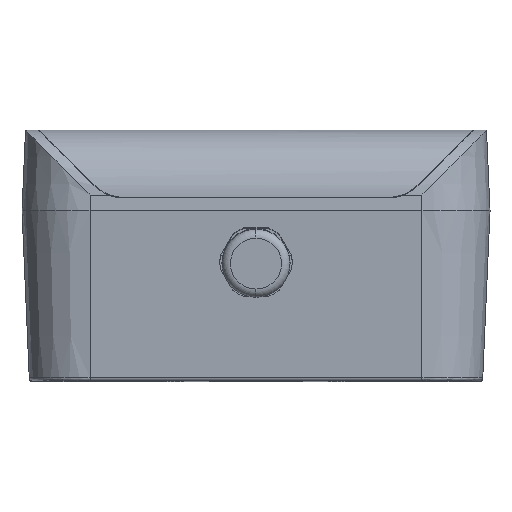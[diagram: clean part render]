
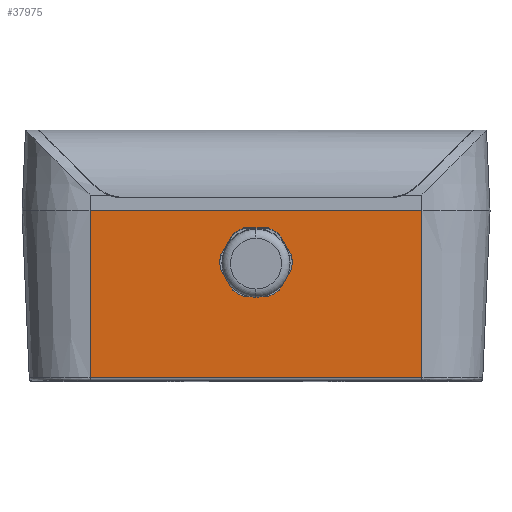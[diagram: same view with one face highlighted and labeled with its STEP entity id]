
A CAD part, top view. The second image highlights one B-rep face of the part: STEP entity #37975.
In plain terms, the highlighted planar face has unit normal (0, -0.044, 0.999) as drawn and (0.999, -0.044, 0) by its records, which use the part's own axes.
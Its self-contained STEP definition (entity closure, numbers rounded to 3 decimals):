
#2687 = ORIENTED_EDGE ( 'NONE', *, *, #29177, .T. ) ;
#3747 = CARTESIAN_POINT ( 'NONE',  ( 68.285, 0.717, -39. ) ) ;
#3921 = VERTEX_POINT ( 'NONE', #41960 ) ;
#5161 = CARTESIAN_POINT ( 'NONE',  ( 70., 40., 39. ) ) ;
#7081 = DIRECTION ( 'NONE',  ( 0., 0., -1. ) ) ;
#7794 = CARTESIAN_POINT ( 'NONE',  ( 70., 40., 39. ) ) ;
#11248 = LINE ( 'NONE', #7794, #59584 ) ;
#11751 = CARTESIAN_POINT ( 'NONE',  ( 70., 40., 39. ) ) ;
#12471 = DIRECTION ( 'NONE',  ( -0.044, -0.999, 0. ) ) ;
#12801 = AXIS2_PLACEMENT_3D ( 'NONE', #16273, #48984, #20999 ) ;
#12861 = VERTEX_POINT ( 'NONE', #45267 ) ;
#14370 = FACE_BOUND ( 'NONE', #25159, .T. ) ;
#16103 = ORIENTED_EDGE ( 'NONE', *, *, #49484, .F. ) ;
#16273 = CARTESIAN_POINT ( 'NONE',  ( 69.474, 27.961, 0. ) ) ;
#18792 = CARTESIAN_POINT ( 'NONE',  ( 70., 40., -39. ) ) ;
#19293 = PLANE ( 'NONE',  #41848 ) ;
#20999 = DIRECTION ( 'NONE',  ( 0.044, 0.999, 0. ) ) ;
#21915 = CARTESIAN_POINT ( 'NONE',  ( 68.285, 0.717, 39. ) ) ;
#22766 = VECTOR ( 'NONE', #7081, 1000. ) ;
#23971 = DIRECTION ( 'NONE',  ( 0.999, -0.044, 0. ) ) ;
#23983 = CIRCLE ( 'NONE', #12801, 6.25 ) ;
#24118 = CARTESIAN_POINT ( 'NONE',  ( 69.474, 27.961, 0. ) ) ;
#24596 = VERTEX_POINT ( 'NONE', #32585 ) ;
#25159 = EDGE_LOOP ( 'NONE', ( #37374, #47610 ) ) ;
#25686 = VERTEX_POINT ( 'NONE', #18792 ) ;
#26550 = CIRCLE ( 'NONE', #43137, 6.25 ) ;
#26608 = DIRECTION ( 'NONE',  ( 0., 0., -1. ) ) ;
#28799 = DIRECTION ( 'NONE',  ( 0.044, 0.999, 0. ) ) ;
#29177 = EDGE_CURVE ( 'NONE', #34388, #46371, #49774, .T. ) ;
#29648 = EDGE_LOOP ( 'NONE', ( #52297, #30102, #2687, #16103 ) ) ;
#30014 = EDGE_CURVE ( 'NONE', #3921, #24596, #23983, .T. ) ;
#30102 = ORIENTED_EDGE ( 'NONE', *, *, #51195, .T. ) ;
#32333 = EDGE_CURVE ( 'NONE', #24596, #3921, #26550, .T. ) ;
#32585 = CARTESIAN_POINT ( 'NONE',  ( 69.747, 34.205, 0. ) ) ;
#33460 = VECTOR ( 'NONE', #60430, 1000. ) ;
#34388 = VERTEX_POINT ( 'NONE', #48813 ) ;
#34951 = LINE ( 'NONE', #55682, #33460 ) ;
#37374 = ORIENTED_EDGE ( 'NONE', *, *, #32333, .F. ) ;
#37975 = ADVANCED_FACE ( 'NONE', ( #14370, #50232 ), #19293, .T. ) ;
#41261 = EDGE_CURVE ( 'NONE', #12861, #25686, #47657, .T. ) ;
#41848 = AXIS2_PLACEMENT_3D ( 'NONE', #5161, #23971, #56702 ) ;
#41960 = CARTESIAN_POINT ( 'NONE',  ( 69.202, 21.717, 0. ) ) ;
#43137 = AXIS2_PLACEMENT_3D ( 'NONE', #24118, #56849, #28799 ) ;
#45267 = CARTESIAN_POINT ( 'NONE',  ( 70., 40., 39. ) ) ;
#46371 = VERTEX_POINT ( 'NONE', #3747 ) ;
#46842 = VECTOR ( 'NONE', #26608, 1000. ) ;
#47610 = ORIENTED_EDGE ( 'NONE', *, *, #30014, .F. ) ;
#47657 = LINE ( 'NONE', #11751, #22766 ) ;
#48813 = CARTESIAN_POINT ( 'NONE',  ( 68.285, 0.717, 39. ) ) ;
#48984 = DIRECTION ( 'NONE',  ( 0.999, -0.044, 0. ) ) ;
#49484 = EDGE_CURVE ( 'NONE', #25686, #46371, #34951, .T. ) ;
#49774 = LINE ( 'NONE', #21915, #46842 ) ;
#50232 = FACE_OUTER_BOUND ( 'NONE', #29648, .T. ) ;
#51195 = EDGE_CURVE ( 'NONE', #12861, #34388, #11248, .T. ) ;
#52297 = ORIENTED_EDGE ( 'NONE', *, *, #41261, .F. ) ;
#55682 = CARTESIAN_POINT ( 'NONE',  ( 70., 40., -39. ) ) ;
#56702 = DIRECTION ( 'NONE',  ( 0.044, 0.999, 0. ) ) ;
#56849 = DIRECTION ( 'NONE',  ( 0.999, -0.044, 0. ) ) ;
#59584 = VECTOR ( 'NONE', #12471, 1000. ) ;
#60430 = DIRECTION ( 'NONE',  ( -0.044, -0.999, 0. ) ) ;
